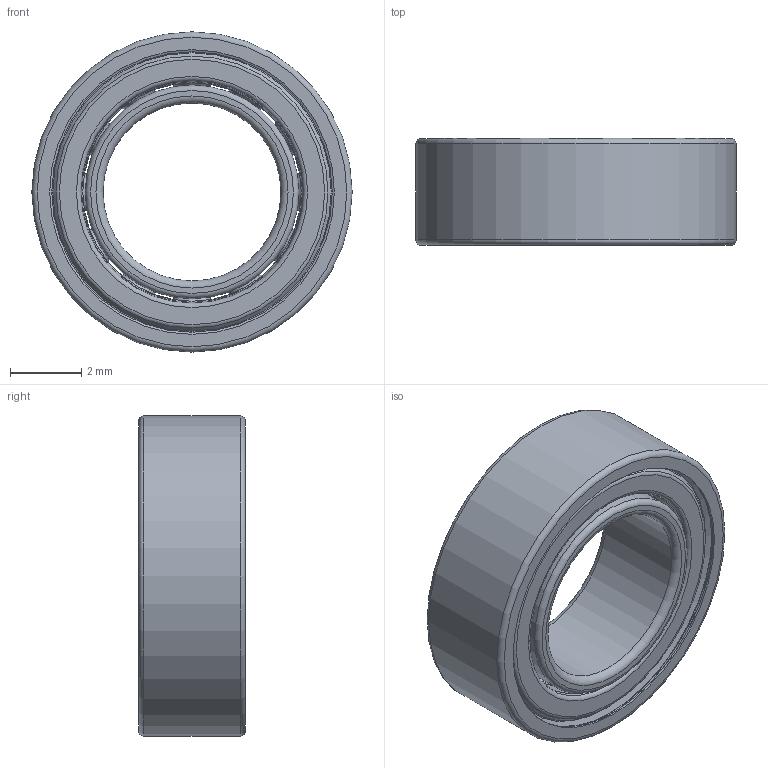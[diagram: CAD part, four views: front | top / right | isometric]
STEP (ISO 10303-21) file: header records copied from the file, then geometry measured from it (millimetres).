
FILE_DESCRIPTION(/* description */ (''),/* implementation_level */ '2;1');
FILE_NAME(/* name */ 'C:/Users/salam/Desktop/M95 Bearing.step',/* time_stamp */ '2020-02-26T12:02:23-03:00',/* author */ (''),/* organization */ (''),/* preprocessor_version */ 'ST-DEVELOPER v18',/* originating_system */ 'Autodesk Translation Framework v8.12.0.6',/* authorisation */ '');
FILE_SCHEMA (('AUTOMOTIVE_DESIGN { 1 0 10303 214 3 1 1 }'));
Length unit declared in the file: millimetre
Products named in the file (1): Rolamento 593
Bounding box: 9 x 3 x 9 mm (x, y, z)
Volume: 91.5 mm3; surface area: 657.2 mm2
Topology: 17 solids, 17 shells, 106 faces, 322 edges, 228 vertices
Faces by surface type: torus 34, sphere 24, cone 22, plane 14, cylinder 12
Full cylindrical faces by diameter (mm): 5 x1, 6 x2, 6.14 x1, 7.86 x1, 8 x4, 8.04 x2, 9 x1
Entity records: 4618 total; most frequent: CARTESIAN_POINT 1537, DIRECTION 694, ORIENTED_EDGE 596, AXIS2_PLACEMENT_3D 329, EDGE_CURVE 298, VERTEX_POINT 228, CIRCLE 222, EDGE_LOOP 142
